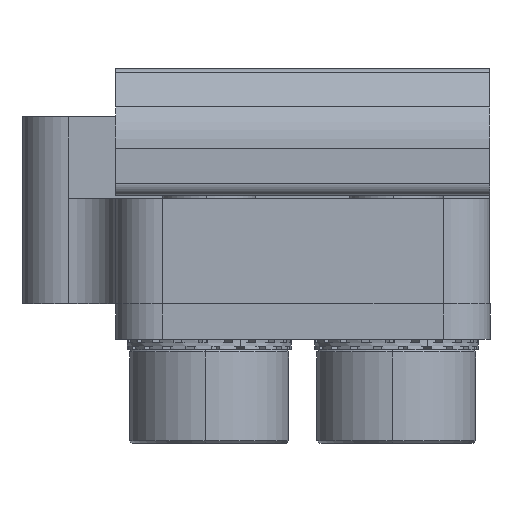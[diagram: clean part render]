
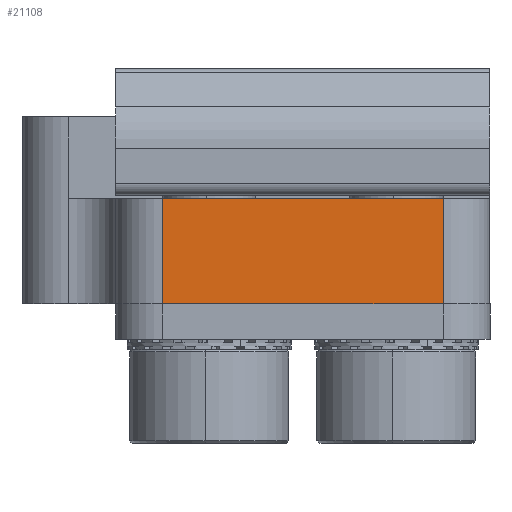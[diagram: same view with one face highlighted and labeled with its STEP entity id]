
A CAD part, front view. The second image highlights one B-rep face of the part: STEP entity #21108.
In plain terms, the highlighted planar face has unit normal (0, -1, 0).
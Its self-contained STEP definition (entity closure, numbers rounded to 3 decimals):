
#478 = DIRECTION ( 'NONE',  ( 1., 0., 0. ) ) ;
#543 = FACE_OUTER_BOUND ( 'NONE', #2406, .T. ) ;
#1148 = LINE ( 'NONE', #29072, #3025 ) ;
#1659 = CARTESIAN_POINT ( 'NONE',  ( -34.371, -29.878, 19.379 ) ) ;
#2406 = EDGE_LOOP ( 'NONE', ( #8474, #28174, #3494, #21109 ) ) ;
#3025 = VECTOR ( 'NONE', #31352, 1000. ) ;
#3494 = ORIENTED_EDGE ( 'NONE', *, *, #7022, .T. ) ;
#4972 = VERTEX_POINT ( 'NONE', #21639 ) ;
#5394 = LINE ( 'NONE', #29593, #11114 ) ;
#6969 = CARTESIAN_POINT ( 'NONE',  ( -46.371, -29.878, 19.379 ) ) ;
#7022 = EDGE_CURVE ( 'NONE', #4972, #18239, #1148, .T. ) ;
#7506 = PLANE ( 'NONE',  #31417 ) ;
#7511 = EDGE_CURVE ( 'NONE', #18239, #28245, #27302, .T. ) ;
#8296 = VECTOR ( 'NONE', #31117, 1000. ) ;
#8474 = ORIENTED_EDGE ( 'NONE', *, *, #16203, .T. ) ;
#9062 = CARTESIAN_POINT ( 'NONE',  ( -34.371, -29.878, 14.879 ) ) ;
#10494 = CARTESIAN_POINT ( 'NONE',  ( -46.371, -29.878, 14.879 ) ) ;
#11114 = VECTOR ( 'NONE', #478, 1000. ) ;
#12287 = VERTEX_POINT ( 'NONE', #9062 ) ;
#14094 = CARTESIAN_POINT ( 'NONE',  ( -46.371, -29.878, 0. ) ) ;
#16203 = EDGE_CURVE ( 'NONE', #28245, #12287, #5394, .T. ) ;
#16413 = DIRECTION ( 'NONE',  ( 0., 0., 1. ) ) ;
#18239 = VERTEX_POINT ( 'NONE', #6969 ) ;
#19457 = DIRECTION ( 'NONE',  ( 0., 0., 1. ) ) ;
#20388 = LINE ( 'NONE', #1659, #29492 ) ;
#21108 = ADVANCED_FACE ( 'NONE', ( #543 ), #7506, .F. ) ;
#21109 = ORIENTED_EDGE ( 'NONE', *, *, #7511, .T. ) ;
#21639 = CARTESIAN_POINT ( 'NONE',  ( -34.371, -29.878, 19.379 ) ) ;
#24447 = CARTESIAN_POINT ( 'NONE',  ( 0., -29.878, 0. ) ) ;
#24565 = DIRECTION ( 'NONE',  ( 0., 1., 0. ) ) ;
#27294 = EDGE_CURVE ( 'NONE', #12287, #4972, #20388, .T. ) ;
#27302 = LINE ( 'NONE', #14094, #8296 ) ;
#28174 = ORIENTED_EDGE ( 'NONE', *, *, #27294, .T. ) ;
#28245 = VERTEX_POINT ( 'NONE', #10494 ) ;
#29072 = CARTESIAN_POINT ( 'NONE',  ( -48.371, -29.878, 19.379 ) ) ;
#29492 = VECTOR ( 'NONE', #16413, 1000. ) ;
#29593 = CARTESIAN_POINT ( 'NONE',  ( -32.371, -29.878, 14.879 ) ) ;
#31117 = DIRECTION ( 'NONE',  ( 0., 0., -1. ) ) ;
#31352 = DIRECTION ( 'NONE',  ( -1., 0., 0. ) ) ;
#31417 = AXIS2_PLACEMENT_3D ( 'NONE', #24447, #24565, #19457 ) ;
